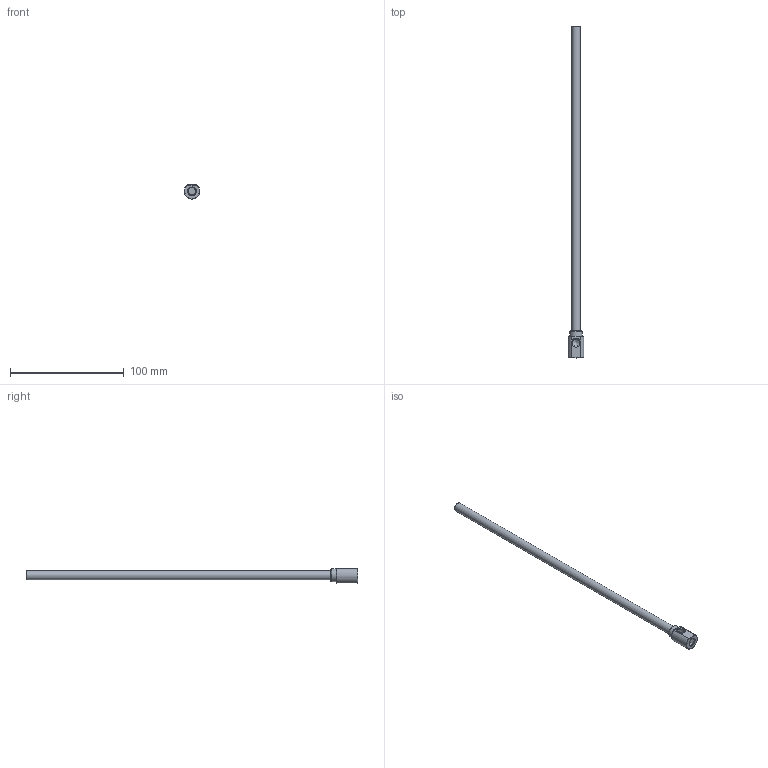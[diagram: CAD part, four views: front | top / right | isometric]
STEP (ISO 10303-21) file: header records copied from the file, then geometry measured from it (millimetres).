
FILE_DESCRIPTION(/* description */ (''),/* implementation_level */ '2;1');
FILE_NAME(/* name */ 'C:/Users/drich/Desktop/EKL16 X 11.5 v2.step',/* time_stamp */ '2019-11-18T14:37:11-06:00',/* author */ (''),/* organization */ (''),/* preprocessor_version */ 'ST-DEVELOPER v18',/* originating_system */ 'Autodesk Translation Framework v8.12.0.6',/* authorisation */ '');
FILE_SCHEMA (('AUTOMOTIVE_DESIGN { 1 0 10303 214 3 1 1 }'));
Length unit declared in the file: inch
Products named in the file (2): EKL16 X 11.5; EKL16 X 11-1/2
Assembly tree (1 placements, depth 2):
  EKL16 X 11.5
    EKL16 X 11-1/2
Bounding box: 13.97 x 292.1 x 12.7 mm (x, y, z)
Volume: 10615.6 mm3; surface area: 12313 mm2
Topology: 1 solids, 1 shells, 29 faces, 80 edges, 56 vertices
Faces by surface type: plane 15, cone 8, cylinder 6
Full cylindrical faces by diameter (mm): 4.75 x1, 6.566 x1, 7.62 x1, 7.828 x1, 11.1 x1
Entity records: 1016 total; most frequent: CARTESIAN_POINT 241, ORIENTED_EDGE 158, DIRECTION 148, EDGE_CURVE 79, AXIS2_PLACEMENT_3D 59, VERTEX_POINT 56, EDGE_LOOP 35, LINE 30
